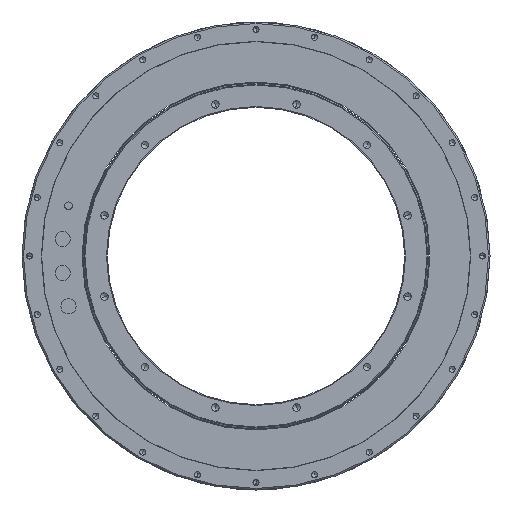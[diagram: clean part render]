
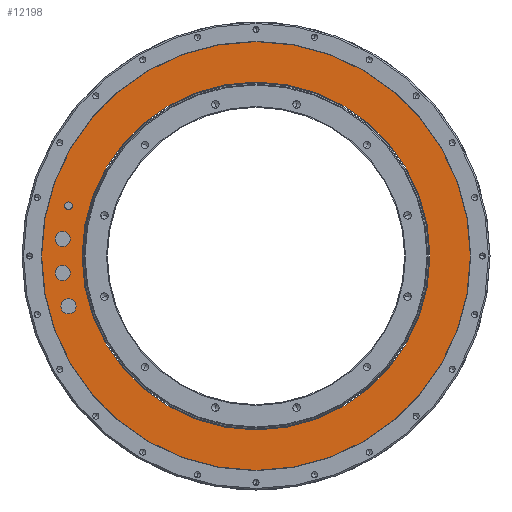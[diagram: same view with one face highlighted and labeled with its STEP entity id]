
A CAD part, left-side view. The second image highlights one B-rep face of the part: STEP entity #12198.
In plain terms, the highlighted planar face has unit normal (-1, 0, 0).
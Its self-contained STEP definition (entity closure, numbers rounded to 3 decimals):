
#11777=CARTESIAN_POINT('',(-120.,0.,0.));
#11778=DIRECTION('',(-1.,0.,0.));
#11779=DIRECTION('',(0.,1.,0.));
#11780=AXIS2_PLACEMENT_3D('',#11777,#11778,#11779);
#11782=CARTESIAN_POINT('',(-120.,0.,0.));
#11783=DIRECTION('',(1.,0.,0.));
#11784=DIRECTION('',(0.,1.,0.));
#11785=AXIS2_PLACEMENT_3D('',#11782,#11783,#11784);
#11787=CARTESIAN_POINT('',(-120.,0.,0.));
#11788=DIRECTION('',(-1.,0.,0.));
#11789=DIRECTION('',(0.,1.,0.));
#11790=AXIS2_PLACEMENT_3D('',#11787,#11788,#11789);
#11792=CARTESIAN_POINT('',(-120.,0.,0.));
#11793=DIRECTION('',(1.,0.,0.));
#11794=DIRECTION('',(0.,1.,0.));
#11795=AXIS2_PLACEMENT_3D('',#11792,#11793,#11794);
#11797=CARTESIAN_POINT('',(-120.,124.218,-33.284));
#11798=DIRECTION('',(-1.,0.,0.));
#11799=DIRECTION('',(0.,0.,1.));
#11800=AXIS2_PLACEMENT_3D('',#11797,#11798,#11799);
#11802=CARTESIAN_POINT('',(-120.,124.218,-33.284));
#11803=DIRECTION('',(-1.,0.,0.));
#11804=DIRECTION('',(0.,0.,-1.));
#11805=AXIS2_PLACEMENT_3D('',#11802,#11803,#11804);
#11807=CARTESIAN_POINT('',(-120.,124.218,33.284));
#11808=DIRECTION('',(-1.,0.,0.));
#11809=DIRECTION('',(0.,0.,1.));
#11810=AXIS2_PLACEMENT_3D('',#11807,#11808,#11809);
#11812=CARTESIAN_POINT('',(-120.,124.218,33.284));
#11813=DIRECTION('',(-1.,0.,0.));
#11814=DIRECTION('',(0.,0.,-1.));
#11815=AXIS2_PLACEMENT_3D('',#11812,#11813,#11814);
#11817=CARTESIAN_POINT('',(-120.,128.111,11.208));
#11818=DIRECTION('',(-1.,0.,0.));
#11819=DIRECTION('',(0.,0.,1.));
#11820=AXIS2_PLACEMENT_3D('',#11817,#11818,#11819);
#11822=CARTESIAN_POINT('',(-120.,128.111,11.208));
#11823=DIRECTION('',(-1.,0.,0.));
#11824=DIRECTION('',(0.,0.,-1.));
#11825=AXIS2_PLACEMENT_3D('',#11822,#11823,#11824);
#11827=CARTESIAN_POINT('',(-120.,128.111,-11.208));
#11828=DIRECTION('',(-1.,0.,0.));
#11829=DIRECTION('',(0.,0.,1.));
#11830=AXIS2_PLACEMENT_3D('',#11827,#11828,#11829);
#11832=CARTESIAN_POINT('',(-120.,128.111,-11.208));
#11833=DIRECTION('',(-1.,0.,0.));
#11834=DIRECTION('',(0.,0.,-1.));
#11835=AXIS2_PLACEMENT_3D('',#11832,#11833,#11834);
#11986=CARTESIAN_POINT('',(-120.,142.,0.));
#11988=VERTEX_POINT('',#11986);
#11989=CARTESIAN_POINT('',(-120.,115.2,0.));
#11991=VERTEX_POINT('',#11989);
#12006=CARTESIAN_POINT('',(-120.,-142.,0.));
#12008=VERTEX_POINT('',#12006);
#12009=CARTESIAN_POINT('',(-120.,-115.2,0.));
#12011=VERTEX_POINT('',#12009);
#12041=CARTESIAN_POINT('',(-120.,124.218,-28.284));
#12042=CARTESIAN_POINT('',(-120.,124.218,-38.284));
#12043=VERTEX_POINT('',#12041);
#12044=VERTEX_POINT('',#12042);
#12045=CARTESIAN_POINT('',(-120.,124.218,35.784));
#12046=CARTESIAN_POINT('',(-120.,124.218,30.784));
#12047=VERTEX_POINT('',#12045);
#12048=VERTEX_POINT('',#12046);
#12049=CARTESIAN_POINT('',(-120.,128.111,16.208));
#12050=CARTESIAN_POINT('',(-120.,128.111,6.208));
#12051=VERTEX_POINT('',#12049);
#12052=VERTEX_POINT('',#12050);
#12053=CARTESIAN_POINT('',(-120.,128.111,-6.208));
#12054=CARTESIAN_POINT('',(-120.,128.111,-16.208));
#12055=VERTEX_POINT('',#12053);
#12056=VERTEX_POINT('',#12054);
#12159=CARTESIAN_POINT('',(-120.,0.,0.));
#12160=DIRECTION('',(1.,0.,0.));
#12161=DIRECTION('',(0.,-1.,0.));
#12162=AXIS2_PLACEMENT_3D('',#12159,#12160,#12161);
#12163=PLANE('',#12162);
#12165=ORIENTED_EDGE('',*,*,#12164,.F.);
#12167=ORIENTED_EDGE('',*,*,#12166,.T.);
#12168=EDGE_LOOP('',(#12165,#12167));
#12169=FACE_OUTER_BOUND('',#12168,.F.);
#12170=ORIENTED_EDGE('',*,*,#12152,.F.);
#12171=ORIENTED_EDGE('',*,*,#12141,.T.);
#12172=EDGE_LOOP('',(#12170,#12171));
#12173=FACE_BOUND('',#12172,.F.);
#12175=ORIENTED_EDGE('',*,*,#12174,.T.);
#12177=ORIENTED_EDGE('',*,*,#12176,.T.);
#12178=EDGE_LOOP('',(#12175,#12177));
#12179=FACE_BOUND('',#12178,.F.);
#12181=ORIENTED_EDGE('',*,*,#12180,.T.);
#12183=ORIENTED_EDGE('',*,*,#12182,.T.);
#12184=EDGE_LOOP('',(#12181,#12183));
#12185=FACE_BOUND('',#12184,.F.);
#12187=ORIENTED_EDGE('',*,*,#12186,.T.);
#12189=ORIENTED_EDGE('',*,*,#12188,.T.);
#12190=EDGE_LOOP('',(#12187,#12189));
#12191=FACE_BOUND('',#12190,.F.);
#12193=ORIENTED_EDGE('',*,*,#12192,.T.);
#12195=ORIENTED_EDGE('',*,*,#12194,.T.);
#12196=EDGE_LOOP('',(#12193,#12195));
#12197=FACE_BOUND('',#12196,.F.);
#12198=ADVANCED_FACE('',(#12169,#12173,#12179,#12185,#12191,#12197),#12163,.F.);
#11781=CIRCLE('',#11780,115.2);
#11786=CIRCLE('',#11785,115.2);
#11791=CIRCLE('',#11790,142.);
#11796=CIRCLE('',#11795,142.);
#11801=CIRCLE('',#11800,5.);
#11806=CIRCLE('',#11805,5.);
#11811=CIRCLE('',#11810,2.5);
#11816=CIRCLE('',#11815,2.5);
#11821=CIRCLE('',#11820,5.);
#11826=CIRCLE('',#11825,5.);
#11831=CIRCLE('',#11830,5.);
#11836=CIRCLE('',#11835,5.);
#12141=EDGE_CURVE('',#11991,#12011,#11781,.T.);
#12152=EDGE_CURVE('',#11991,#12011,#11786,.T.);
#12164=EDGE_CURVE('',#11988,#12008,#11791,.T.);
#12166=EDGE_CURVE('',#11988,#12008,#11796,.T.);
#12174=EDGE_CURVE('',#12043,#12044,#11801,.T.);
#12176=EDGE_CURVE('',#12044,#12043,#11806,.T.);
#12180=EDGE_CURVE('',#12047,#12048,#11811,.T.);
#12182=EDGE_CURVE('',#12048,#12047,#11816,.T.);
#12186=EDGE_CURVE('',#12051,#12052,#11821,.T.);
#12188=EDGE_CURVE('',#12052,#12051,#11826,.T.);
#12192=EDGE_CURVE('',#12055,#12056,#11831,.T.);
#12194=EDGE_CURVE('',#12056,#12055,#11836,.T.);
